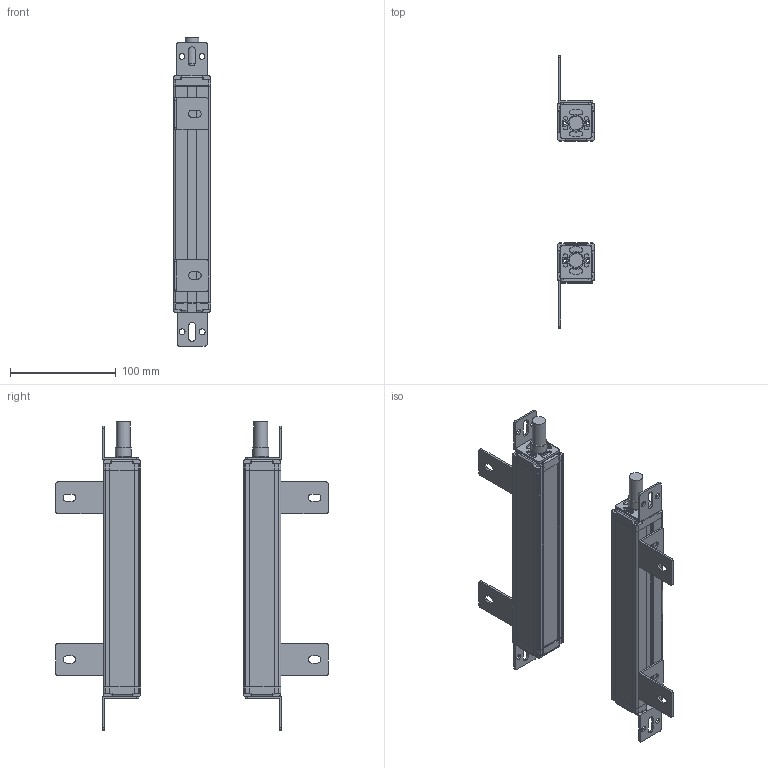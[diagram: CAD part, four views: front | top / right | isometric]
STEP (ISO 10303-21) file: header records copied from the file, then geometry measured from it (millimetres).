
FILE_DESCRIPTION(/* description */ (''),/* implementation_level */ '2;1');
FILE_NAME(/* name */ '1810_35X35_stp_stp.stp',/* time_stamp */ '2023-09-18T17:03:59+08:00',/* author */ (''),/* organization */ (''),/* preprocessor_version */ 'ST-DEVELOPER v16.7',/* originating_system */ 'SIEMENS PLM Software NX 12.0',/* authorisation */ '');
FILE_SCHEMA (('AP203_CONFIGURATION_CONTROLLED_3D_DESIGN_OF_MECHANICAL_PARTS_AND_ASSEMBLIES_MIM_LF { 1 0 10303 403 2 1 2}'));
Length unit declared in the file: millimetre
Products named in the file (1): 0420_35X35_stp_stp
Bounding box: 35.41 x 258.01 x 291.6 mm (x, y, z)
Volume: 257669.5 mm3; surface area: 203617.1 mm2
Topology: 28 solids, 28 shells, 1182 faces, 3360 edges, 2260 vertices
Faces by surface type: plane 658, cylinder 464, cone 60
Full cylindrical faces by diameter (mm): 3.2 x8, 6 x24, 13 x2, 14.4 x2, 15 x2
Entity records: 39055 total; most frequent: DIRECTION 6832, CARTESIAN_POINT 6745, ORIENTED_EDGE 6612, EDGE_CURVE 3306, AXIS2_PLACEMENT_3D 2347, VERTEX_POINT 2244, LINE 2138, VECTOR 2138
